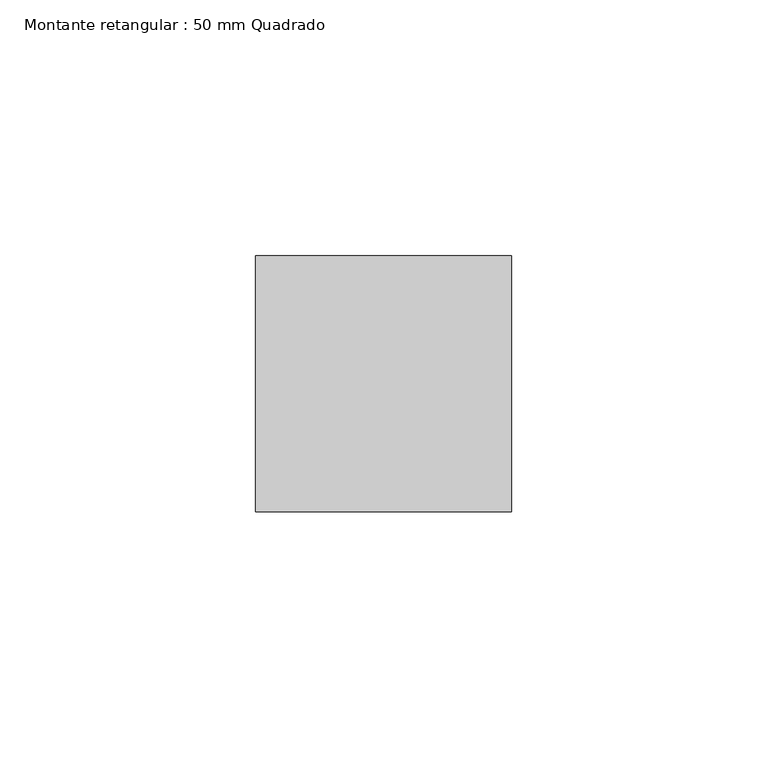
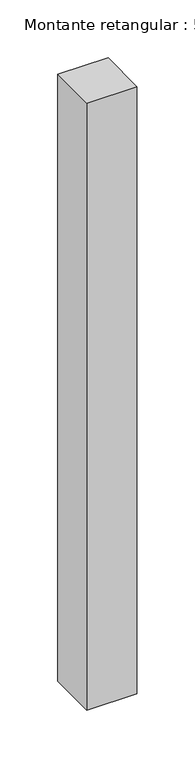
"""IFC4 building model written with IfcOpenShell, lengths in millimetres: member geometry, Montante retangular : 50 mm Quadrado."""

from ifc_helpers import new_model, si_unit, frame, origin, place, context, project, spatial, polyline, outline, extrude, source, transform, mapped, element, save


def montante_retangular_50_mm_quadrado_a01005a4(model_context):
    return source(origin(), model_context, "Body", "SweptSolid", [
        extrude(outline(polyline([(0.0, 25.0), (0.0, -25.0), (-50.0, -25.0), (-50.0, 25.0), (0.0, 25.0)])), frame((0.0, 0.0, -640.0), z_axis=(0.0, 0.0, 1.0), x_axis=(1.0, 0.0, 0.0)), (0.0, 0.0, 1.0), 640.0),
    ])


if __name__ == "__main__":
    model = new_model("IFC4")
    model_context = context("Model", 3, world=origin())
    ifc_project = project(units=[si_unit("LENGTHUNIT", "METRE", prefix="MILLI")], contexts=[model_context])
    site = spatial("IfcSite", under=ifc_project)
    building = spatial("IfcBuilding", under=site)
    placement = place(None, origin())
    montante_retangular_50_mm_quadrado_shape = montante_retangular_50_mm_quadrado_a01005a4(model_context)
    element("IfcMember", 1, ObjectType="Montante retangular : 50 mm Quadrado", at=placement, inside=building, context=model_context, shape_type="MappedRepresentation", body=[
        mapped(montante_retangular_50_mm_quadrado_shape, transform((0.0, 0.0, 0.0), x_axis=(1.0, 0.0, 0.0), y_axis=(0.0, 1.0, 0.0), z_axis=(0.0, 0.0, 1.0))),
    ])
    save(model, "model.ifc")
